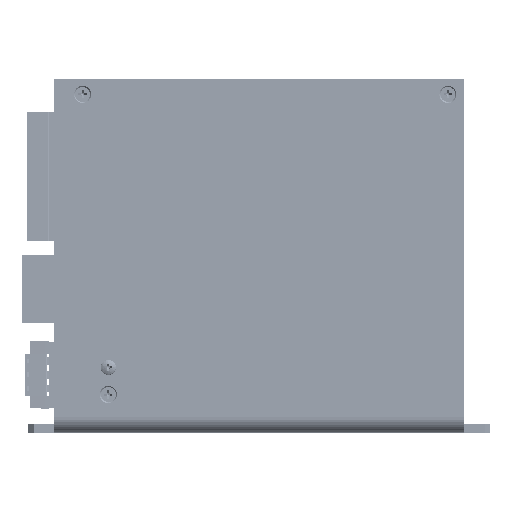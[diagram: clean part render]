
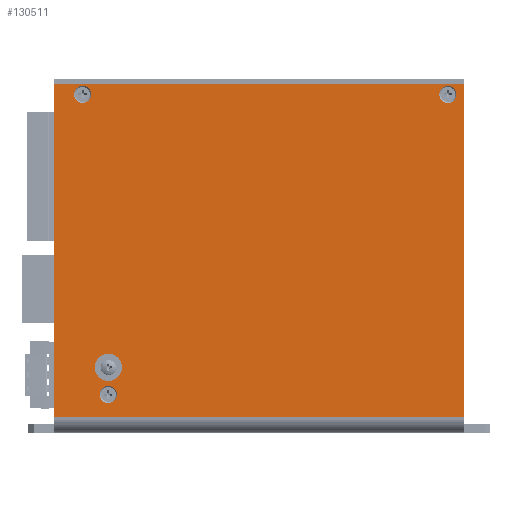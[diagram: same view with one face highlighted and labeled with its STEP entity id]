
A CAD part, front view. The second image highlights one B-rep face of the part: STEP entity #130511.
In plain terms, the highlighted planar face has unit normal (0, -1, 0).
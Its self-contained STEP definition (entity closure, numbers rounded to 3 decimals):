
#639 = DIRECTION ( 'NONE',  ( 0., -1., 0. ) ) ;
#6719 = ORIENTED_EDGE ( 'NONE', *, *, #236510, .F. ) ;
#12020 = VERTEX_POINT ( 'NONE', #139434 ) ;
#12208 = CARTESIAN_POINT ( 'NONE',  ( 69.5, -19.5, 121.35 ) ) ;
#12850 = EDGE_CURVE ( 'NONE', #165923, #353256, #86887, .T. ) ;
#15103 = ORIENTED_EDGE ( 'NONE', *, *, #150819, .F. ) ;
#17455 = DIRECTION ( 'NONE',  ( 0., -1., 0. ) ) ;
#17715 = DIRECTION ( 'NONE',  ( 0., -1., 0. ) ) ;
#22541 = CARTESIAN_POINT ( 'NONE',  ( -55.5, -19.5, 17.15 ) ) ;
#22915 = AXIS2_PLACEMENT_3D ( 'NONE', #194628, #17455, #254967 ) ;
#26079 = DIRECTION ( 'NONE',  ( 0., -1., 0. ) ) ;
#33977 = AXIS2_PLACEMENT_3D ( 'NONE', #85853, #87770, #204677 ) ;
#48235 = EDGE_CURVE ( 'NONE', #186573, #75970, #226641, .T. ) ;
#53196 = VERTEX_POINT ( 'NONE', #91679 ) ;
#59756 = EDGE_CURVE ( 'NONE', #75970, #186573, #83005, .T. ) ;
#71475 = EDGE_CURVE ( 'NONE', #78225, #121690, #206460, .T. ) ;
#75966 = EDGE_CURVE ( 'NONE', #288668, #53196, #278984, .T. ) ;
#75970 = VERTEX_POINT ( 'NONE', #12208 ) ;
#78225 = VERTEX_POINT ( 'NONE', #217600 ) ;
#79011 = CIRCLE ( 'NONE', #296649, 5. ) ;
#80467 = DIRECTION ( 'NONE',  ( 0., -1., 0. ) ) ;
#81923 = DIRECTION ( 'NONE',  ( 0., 0., -1. ) ) ;
#83005 = CIRCLE ( 'NONE', #101650, 3.15 ) ;
#84969 = CARTESIAN_POINT ( 'NONE',  ( 85., -19.5, 128.5 ) ) ;
#85853 = CARTESIAN_POINT ( 'NONE',  ( 69.5, -19.5, 124.5 ) ) ;
#86887 = LINE ( 'NONE', #84969, #318279 ) ;
#87770 = DIRECTION ( 'NONE',  ( 0., -1., 0. ) ) ;
#90714 = AXIS2_PLACEMENT_3D ( 'NONE', #146666, #639, #121350 ) ;
#91679 = CARTESIAN_POINT ( 'NONE',  ( 75.5, -19.5, 5.7 ) ) ;
#95936 = ORIENTED_EDGE ( 'NONE', *, *, #266597, .F. ) ;
#101650 = AXIS2_PLACEMENT_3D ( 'NONE', #232234, #80467, #199201 ) ;
#102253 = ORIENTED_EDGE ( 'NONE', *, *, #12850, .F. ) ;
#103311 = ORIENTED_EDGE ( 'NONE', *, *, #48235, .F. ) ;
#107220 = DIRECTION ( 'NONE',  ( 0., 0., -1. ) ) ;
#108981 = DIRECTION ( 'NONE',  ( 0., 0., 1. ) ) ;
#109147 = PLANE ( 'NONE',  #118882 ) ;
#117279 = AXIS2_PLACEMENT_3D ( 'NONE', #337384, #273043, #278812 ) ;
#118882 = AXIS2_PLACEMENT_3D ( 'NONE', #372272, #17715, #107220 ) ;
#121350 = DIRECTION ( 'NONE',  ( 0., 0., -1. ) ) ;
#121690 = VERTEX_POINT ( 'NONE', #175293 ) ;
#122868 = DIRECTION ( 'NONE',  ( 0., 0., -1. ) ) ;
#124035 = CARTESIAN_POINT ( 'NONE',  ( -75.5, -19.5, 128.5 ) ) ;
#128925 = CARTESIAN_POINT ( 'NONE',  ( 69.5, -19.5, 127.65 ) ) ;
#130511 = ADVANCED_FACE ( 'NONE', ( #272942, #362683, #331515, #183392, #284473 ), #109147, .T. ) ;
#139434 = CARTESIAN_POINT ( 'NONE',  ( -55.5, -19.5, 19. ) ) ;
#145212 = DIRECTION ( 'NONE',  ( 1., 0., 0. ) ) ;
#146666 = CARTESIAN_POINT ( 'NONE',  ( -55.5, -19.5, 24. ) ) ;
#148264 = EDGE_LOOP ( 'NONE', ( #95936, #6719 ) ) ;
#150819 = EDGE_CURVE ( 'NONE', #160956, #361917, #278477, .T. ) ;
#153593 = DIRECTION ( 'NONE',  ( 0., 0., 1. ) ) ;
#153974 = EDGE_CURVE ( 'NONE', #288668, #165923, #256978, .T. ) ;
#154247 = CARTESIAN_POINT ( 'NONE',  ( -55.5, -19.5, 10.85 ) ) ;
#160956 = VERTEX_POINT ( 'NONE', #154247 ) ;
#165923 = VERTEX_POINT ( 'NONE', #124035 ) ;
#175293 = CARTESIAN_POINT ( 'NONE',  ( -65., -19.5, 121.35 ) ) ;
#179440 = EDGE_LOOP ( 'NONE', ( #187648, #323500 ) ) ;
#182209 = CARTESIAN_POINT ( 'NONE',  ( -55.5, -19.5, 29. ) ) ;
#183392 = FACE_BOUND ( 'NONE', #179440, .T. ) ;
#185566 = CARTESIAN_POINT ( 'NONE',  ( 0., -19.5, 5.7 ) ) ;
#186573 = VERTEX_POINT ( 'NONE', #128925 ) ;
#187648 = ORIENTED_EDGE ( 'NONE', *, *, #327029, .F. ) ;
#191798 = VERTEX_POINT ( 'NONE', #182209 ) ;
#192051 = CIRCLE ( 'NONE', #117279, 3.15 ) ;
#194571 = VECTOR ( 'NONE', #153593, 1000. ) ;
#194628 = CARTESIAN_POINT ( 'NONE',  ( -65., -19.5, 124.5 ) ) ;
#199201 = DIRECTION ( 'NONE',  ( 0., 0., -1. ) ) ;
#204677 = DIRECTION ( 'NONE',  ( 0., 0., -1. ) ) ;
#205730 = EDGE_CURVE ( 'NONE', #53196, #353256, #332903, .T. ) ;
#206460 = CIRCLE ( 'NONE', #368414, 3.15 ) ;
#215012 = CIRCLE ( 'NONE', #90714, 5. ) ;
#217600 = CARTESIAN_POINT ( 'NONE',  ( -65., -19.5, 127.65 ) ) ;
#217871 = CARTESIAN_POINT ( 'NONE',  ( 75.5, -19.5, 0. ) ) ;
#226641 = CIRCLE ( 'NONE', #33977, 3.15 ) ;
#226965 = CARTESIAN_POINT ( 'NONE',  ( -75.5, -19.5, 5.7 ) ) ;
#232234 = CARTESIAN_POINT ( 'NONE',  ( 69.5, -19.5, 124.5 ) ) ;
#236510 = EDGE_CURVE ( 'NONE', #191798, #12020, #215012, .T. ) ;
#239543 = ORIENTED_EDGE ( 'NONE', *, *, #59756, .F. ) ;
#241574 = DIRECTION ( 'NONE',  ( 0., -1., 0. ) ) ;
#245029 = EDGE_LOOP ( 'NONE', ( #239543, #103311 ) ) ;
#247794 = DIRECTION ( 'NONE',  ( 1., 0., 0. ) ) ;
#254861 = ORIENTED_EDGE ( 'NONE', *, *, #362386, .F. ) ;
#254967 = DIRECTION ( 'NONE',  ( 0., 0., -1. ) ) ;
#256978 = LINE ( 'NONE', #375953, #279828 ) ;
#261646 = EDGE_LOOP ( 'NONE', ( #325260, #343766, #283616, #102253 ) ) ;
#263702 = DIRECTION ( 'NONE',  ( 0., 0., -1. ) ) ;
#266597 = EDGE_CURVE ( 'NONE', #12020, #191798, #79011, .T. ) ;
#271434 = CIRCLE ( 'NONE', #22915, 3.15 ) ;
#272768 = CARTESIAN_POINT ( 'NONE',  ( -55.5, -19.5, 14. ) ) ;
#272942 = FACE_BOUND ( 'NONE', #148264, .T. ) ;
#273043 = DIRECTION ( 'NONE',  ( 0., -1., 0. ) ) ;
#278477 = CIRCLE ( 'NONE', #346996, 3.15 ) ;
#278812 = DIRECTION ( 'NONE',  ( 0., 0., -1. ) ) ;
#278984 = LINE ( 'NONE', #185566, #287097 ) ;
#279828 = VECTOR ( 'NONE', #108981, 1000. ) ;
#283616 = ORIENTED_EDGE ( 'NONE', *, *, #205730, .T. ) ;
#284473 = FACE_OUTER_BOUND ( 'NONE', #261646, .T. ) ;
#287097 = VECTOR ( 'NONE', #247794, 1000. ) ;
#288668 = VERTEX_POINT ( 'NONE', #226965 ) ;
#290273 = DIRECTION ( 'NONE',  ( 0., -1., 0. ) ) ;
#296649 = AXIS2_PLACEMENT_3D ( 'NONE', #347645, #26079, #263702 ) ;
#318279 = VECTOR ( 'NONE', #145212, 1000. ) ;
#321452 = CARTESIAN_POINT ( 'NONE',  ( -65., -19.5, 124.5 ) ) ;
#323500 = ORIENTED_EDGE ( 'NONE', *, *, #71475, .F. ) ;
#325260 = ORIENTED_EDGE ( 'NONE', *, *, #153974, .F. ) ;
#327029 = EDGE_CURVE ( 'NONE', #121690, #78225, #271434, .T. ) ;
#331515 = FACE_BOUND ( 'NONE', #245029, .T. ) ;
#332903 = LINE ( 'NONE', #217871, #194571 ) ;
#335283 = EDGE_LOOP ( 'NONE', ( #15103, #254861 ) ) ;
#337384 = CARTESIAN_POINT ( 'NONE',  ( -55.5, -19.5, 14. ) ) ;
#337800 = CARTESIAN_POINT ( 'NONE',  ( 75.5, -19.5, 128.5 ) ) ;
#343766 = ORIENTED_EDGE ( 'NONE', *, *, #75966, .T. ) ;
#346996 = AXIS2_PLACEMENT_3D ( 'NONE', #272768, #241574, #122868 ) ;
#347645 = CARTESIAN_POINT ( 'NONE',  ( -55.5, -19.5, 24. ) ) ;
#353256 = VERTEX_POINT ( 'NONE', #337800 ) ;
#361917 = VERTEX_POINT ( 'NONE', #22541 ) ;
#362386 = EDGE_CURVE ( 'NONE', #361917, #160956, #192051, .T. ) ;
#362683 = FACE_BOUND ( 'NONE', #335283, .T. ) ;
#368414 = AXIS2_PLACEMENT_3D ( 'NONE', #321452, #290273, #81923 ) ;
#372272 = CARTESIAN_POINT ( 'NONE',  ( 0., -19.5, 0. ) ) ;
#375953 = CARTESIAN_POINT ( 'NONE',  ( -75.5, -19.5, 0. ) ) ;
